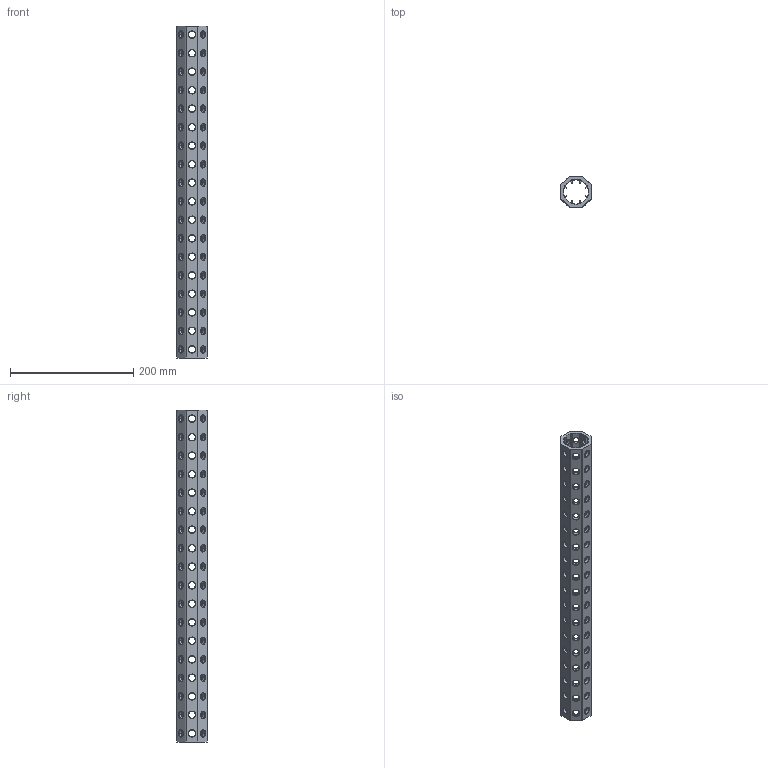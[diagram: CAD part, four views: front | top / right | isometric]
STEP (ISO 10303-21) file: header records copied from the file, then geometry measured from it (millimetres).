
FILE_DESCRIPTION(('CATIA V5 STEP Exchange'),'2;1');
FILE_NAME('U:\Room\唐宝山\EGT002\46-01-010247-01-EGT002-538.stp','2021-08-24T01:02:51+00:00',('none'),('none'),'CATIA Version 5 Release 21 GA (IN-10)','CATIA V5 STEP AP203','none');
FILE_SCHEMA(('CONFIG_CONTROL_DESIGN'));
Length unit declared in the file: millimetre
Products named in the file (1): 46-01-010247-01-EGT002-538
Bounding box: 50 x 50 x 538 mm (x, y, z)
Volume: 383128.7 mm3; surface area: 186029.4 mm2
Topology: 1 solids, 1 shells, 804 faces, 2226 edges, 1388 vertices
Faces by surface type: cone 432, cylinder 346, plane 26
Entity records: 32753 total; most frequent: CARTESIAN_POINT 13208, ORIENTED_EDGE 4452, DIRECTION 3142, EDGE_CURVE 2226, AXIS2_PLACEMENT_3D 1453, VERTEX_POINT 1388, EDGE_LOOP 1058, VECTOR 886
